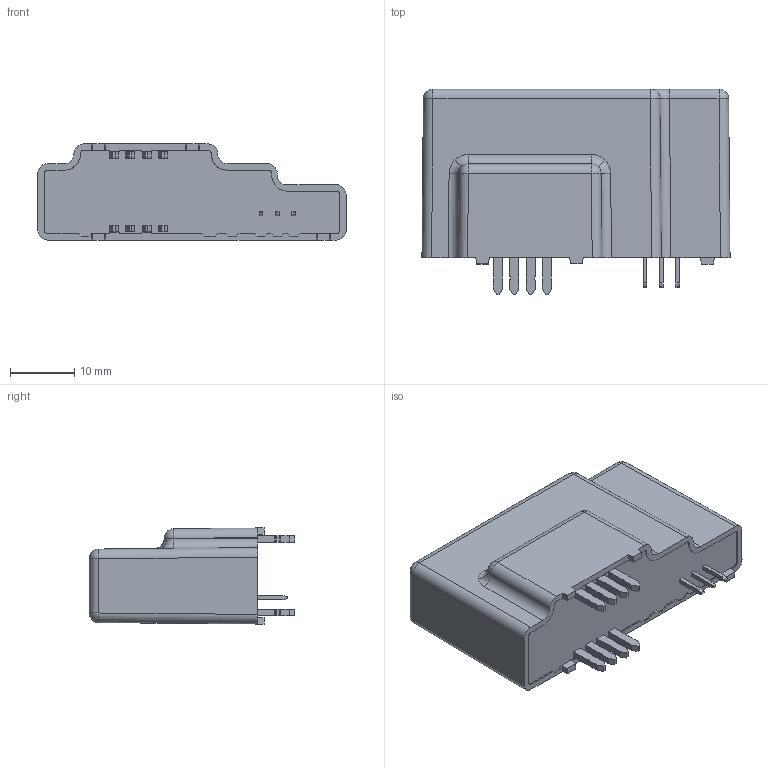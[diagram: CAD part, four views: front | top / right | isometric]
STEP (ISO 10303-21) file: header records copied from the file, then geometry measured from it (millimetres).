
FILE_DESCRIPTION(('Creo Elements/Direct Modeling STEP Export'),'2;1');
FILE_NAME('90.34.36.000.0.stp','2024-02-19T23:33:12',(''),(''),'Creo Elements/Direct Modeling STEP processor for AP214 (Solid Model)','Creo Elements/Direct Modeling 20.3D 14-Nov-2022 (C) Parametric Technology GmbH','');
FILE_SCHEMA(('AUTOMOTIVE_DESIGN { 1 0 10303 214 1 1 1 1 }'));
Length unit declared in the file: millimetre
Products named in the file (2): LAH125-Blackbox
Assembly tree (1 placements, depth 2):
  LAH125-Blackbox
    LAH125-Blackbox
Bounding box: 47.9 x 32 x 14.95 mm (x, y, z)
Volume: 14484.9 mm3; surface area: 4458.3 mm2
Topology: 1 solids, 1 shells, 413 faces, 1128 edges, 737 vertices
Faces by surface type: plane 293, cylinder 104, sphere 7, bspline 5, torus 4
Entity records: 14038 total; most frequent: CARTESIAN_POINT 2728, ORIENTED_EDGE 2242, DIRECTION 1885, EDGE_CURVE 1121, VECTOR 815, LINE 815, VERTEX_POINT 737, AXIS2_PLACEMENT_3D 535
